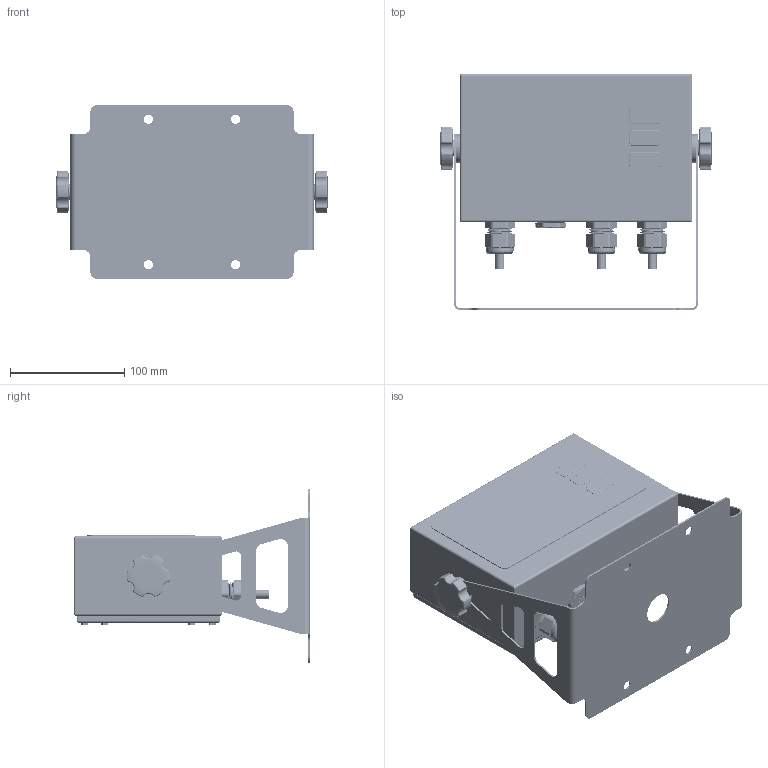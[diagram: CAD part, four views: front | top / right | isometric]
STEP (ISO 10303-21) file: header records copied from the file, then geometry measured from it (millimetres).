
FILE_DESCRIPTION (( 'STEP AP214' ), '1' );
FILE_NAME ('HI6501-S-WP-EIP-DC.STEP', '2024-01-18T18:46:50', ( '' ), ( '' ), 'SwSTEP 2.0', 'SolidWorks 2023', '' );
FILE_SCHEMA (( 'AUTOMOTIVE_DESIGN' ));
Length unit declared in the file: inch
Products named in the file (74): 6032-0089-L4.00_HI 6501-S; 0508-0930-002_Enclosure Cover_Default<As Machined>; 2158-0049-0; 2140-0136-06-0; blind standoff_pmi_PEM BSO-632-24 ZI--C; 0524-0015-02; 0508-0934-01-0_EIP Rear Plate; flat head screw_am_1_B18.6.7M - M2 x 0.4 x 6 Type I Cross Recessed FHMS --6N; 2818-0128-0_91287A010; 2140-0153-03-0; HI 6501-S-MODEL-SERIAL NUMBER LABEL; 2158-0021-0; 50318218527; 2158-0046-08-0; 0508-0932-01-0_Display Backing Assy; PWB_0534-0598-01-0; 2140-0136-03-0; 0508-0930-01-0_Enclosure Assy; 0524-0041-01-0_Compressed; PWA_0535-0587-XX-0; 2411-0052-0_96016A505; 0508-0931-01-0_Display Frame; 0508-0933-01-0_MC PWA Plate Assy; thru-hole standoff_pmi_PEM SO-440-6 ZI--C; LCD Resistive Touch Screen; 0530-0823-01-0; 50318218522; 0517-0141-01-0_Circuit Tail; 2118-0435-0; 2545-0024-0; 2817-0184; 2140-0153-06-0; 0517-0141-01-0_Keypad Assy; 2814-0095-0; 0508-0930-001_Enclosure Case Assy; 0508-0930-001_Enclosure Case; 2817-0171-0_90400A214; 2817-0188_90400A144; 2158-0020-0; 2158-0047-0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
Assembly tree (132 placements, depth 4):
  HI6501-S-WP-EIP-DC
    0508-0930-01-0_Enclosure Assy
      0508-0930-001_Enclosure Case Assy
        0508-0930-001_Enclosure Case
        blind standoff_pmm_PEM BSO-M3-6 ZI--N  x8
        Pem BS-M6-1  x2
        thru-hole standoff_pmi_PEM SO-440-6 ZI--C  x4
      0508-0930-002_Enclosure Cover_Default<As Machined>
    0508-0931-01-0_Display Frame
    0508-0932-01-0_Display Backing Assy
      0508-0932-01-0_Display Backing
      blind standoff_pmi_PEM BSO-632-24 ZI--C  x4
    flat head screw_am_1_B18.6.7M - M2 x 0.4 x 6 Type I Cross Recessed FHMS --6N  x4
    2815-0184-0  x4
    2817-0184  x4
    2450-0041-0_LCD_HI6501-S
      RGB LCD
      LCD Resistive Touch Screen
      RGB LCD_Tail_HI6501-S
    0517-0141-01-0_Keypad Assy
      0517-0141-01-0
      0517-0141-01-0_Circuit Tail
    PWA_0535-0587-XX-0
      PWB_0534-0587-01-0
      2158-0020-0
      2158-0035-0_Molex_541324062
      2118-0378-0
      2158-0021-0
    pan cross head_am_1_B18.6.7M - M2 x 0.4 x 4 Type I Cross Recessed PHMS --4N  x4
    6032-0089-L4.00_HI 6501-S
      10P_IDC Cable_1MM Pitch_Swept_HI 6501-S
      Samtec_TCSD-05 Connector  x2
    0508-0933-01-0_MC PWA Plate Assy
      0508-0933-01-0_MC PWA Plate
      thru-hole standoff_pmi_PEM SOS-6440-6 ---C  x4
    PWA_0535-0598-XX-0_PWA_0535-0598-ANA
      PWB_0534-0598-01-0
      2140-0136-03-0
      2140-0153-03-0
      6026-0003-0_3.5mm Pitch x 5mm Long  x3
      2118-0435-0  x2
      2140-0136-06-0
      2140-0153-06-0
      2140-0136-09-0
      2140-0153-09-0
      2118-0378-0
      2158-0046-08-0
      2158-0047-0
      2158-0049-0
        50318218521
        50318218522
        50318218523
        50318218524
        50318218525
        50318218526
        50318218527
        50318218528
      5111-0011-0
      5126-0012-0
    2817-0171-0_90400A214  x4
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Bounding box: 237.23 x 205.98 x 152.4 mm (x, y, z)
Volume: 456106.6 mm3; surface area: 696754.3 mm2
Topology: 418 solids, 420 shells, 25915 faces, 71067 edges, 46313 vertices
Faces by surface type: plane 16617, cylinder 5016, bspline 3034, cone 638, torus 386, sphere 224
Entity records: 690674 total; most frequent: CARTESIAN_POINT 194662, ORIENTED_EDGE 108641, DIRECTION 88606, EDGE_CURVE 54461, LINE 40558, VECTOR 40558, VERTEX_POINT 35724, AXIS2_PLACEMENT_3D 24024
